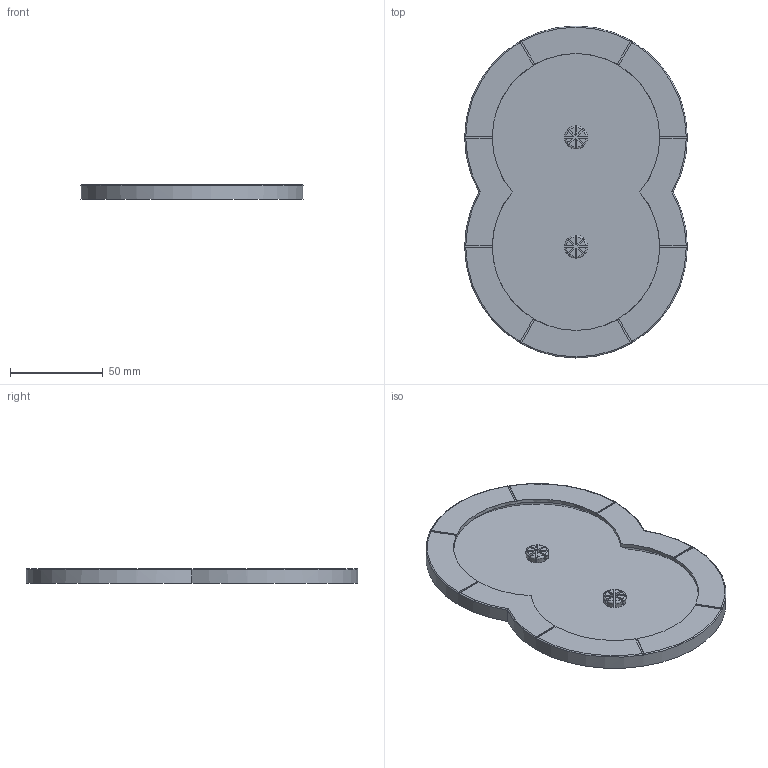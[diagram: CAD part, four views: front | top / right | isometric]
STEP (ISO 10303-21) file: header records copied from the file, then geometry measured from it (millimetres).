
FILE_DESCRIPTION(('FreeCAD Model'),'2;1');
FILE_NAME('Open CASCADE Shape Model','2025-12-23T13:21:51',(''),(''), 'Open CASCADE STEP processor 7.8','FreeCAD','Unknown');
FILE_SCHEMA(('AUTOMOTIVE_DESIGN { 1 0 10303 214 1 1 1 1 }'));
Length unit declared in the file: millimetre
Products named in the file (1): Body
Bounding box: 120 x 178.89 x 8 mm (x, y, z)
Volume: 73790.6 mm3; surface area: 45895.2 mm2
Topology: 1 solids, 1 shells, 135 faces, 331 edges, 215 vertices
Faces by surface type: plane 83, torus 27, cone 19, cylinder 6
Entity records: 5155 total; most frequent: CARTESIAN_POINT 1900, DIRECTION 699, ORIENTED_EDGE 662, EDGE_CURVE 331, AXIS2_PLACEMENT_3D 282, VERTEX_POINT 215, FACE_BOUND 152, EDGE_LOOP 152
